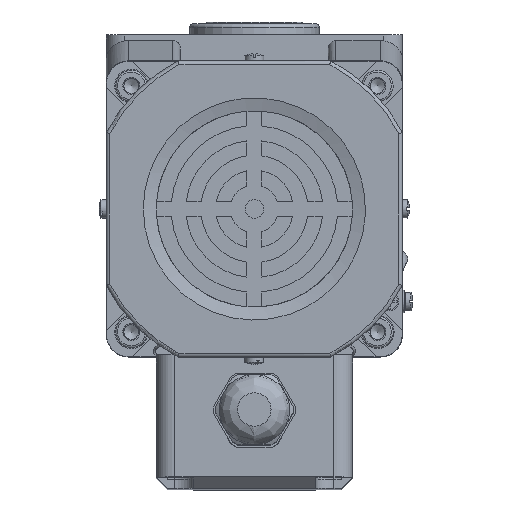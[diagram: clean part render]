
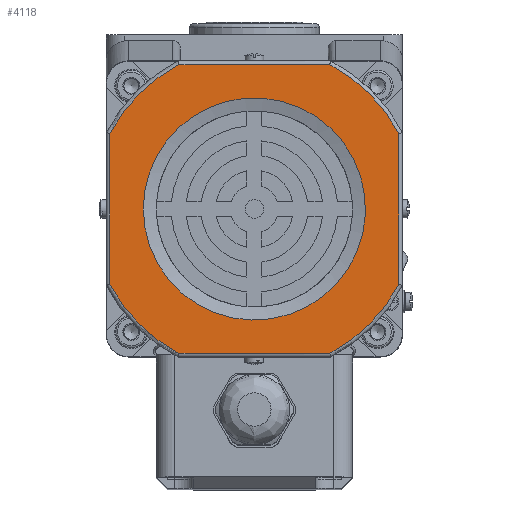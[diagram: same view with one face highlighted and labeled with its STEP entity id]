
A CAD part, left-side view. The second image highlights one B-rep face of the part: STEP entity #4118.
In plain terms, the highlighted planar face has unit normal (-1, 0, 0).
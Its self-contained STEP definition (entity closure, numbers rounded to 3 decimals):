
#765=LINE('',#32811,#1816);
#769=LINE('',#32837,#1820);
#772=LINE('',#32859,#1823);
#773=LINE('',#32870,#1824);
#1816=VECTOR('',#22947,1.);
#1820=VECTOR('',#22963,1.);
#1823=VECTOR('',#22974,1.);
#1824=VECTOR('',#22981,1.);
#3243=FACE_BOUND('',#6947,.T.);
#3244=FACE_BOUND('',#6948,.T.);
#4118=ADVANCED_FACE('',(#3243,#3244),#4998,.F.);
#4998=PLANE('',#20560);
#6947=EDGE_LOOP('',(#10522,#10523,#10524,#10525,#10526,#10527,#10528,#10529));
#6948=EDGE_LOOP('',(#10530));
#10522=ORIENTED_EDGE('',*,*,#16361,.T.);
#10523=ORIENTED_EDGE('',*,*,#16342,.T.);
#10524=ORIENTED_EDGE('',*,*,#16347,.T.);
#10525=ORIENTED_EDGE('',*,*,#16351,.T.);
#10526=ORIENTED_EDGE('',*,*,#16355,.T.);
#10527=ORIENTED_EDGE('',*,*,#16359,.T.);
#10528=ORIENTED_EDGE('',*,*,#16364,.T.);
#10529=ORIENTED_EDGE('',*,*,#16365,.T.);
#10530=ORIENTED_EDGE('',*,*,#16648,.T.);
#14166=VERTEX_POINT('',#32790);
#14167=VERTEX_POINT('',#32792);
#14169=VERTEX_POINT('',#32810);
#14171=VERTEX_POINT('',#32823);
#14173=VERTEX_POINT('',#32836);
#14175=VERTEX_POINT('',#32849);
#14176=VERTEX_POINT('',#32858);
#14177=VERTEX_POINT('',#32869);
#14352=VERTEX_POINT('',#37331);
#16342=EDGE_CURVE('',#14167,#14166,#19233,.T.);
#16347=EDGE_CURVE('',#14166,#14169,#765,.T.);
#16351=EDGE_CURVE('',#14169,#14171,#19235,.T.);
#16355=EDGE_CURVE('',#14171,#14173,#769,.T.);
#16359=EDGE_CURVE('',#14173,#14175,#19237,.T.);
#16361=EDGE_CURVE('',#14176,#14167,#772,.T.);
#16364=EDGE_CURVE('',#14175,#14177,#773,.T.);
#16365=EDGE_CURVE('',#14177,#14176,#19239,.T.);
#16648=EDGE_CURVE('',#14352,#14352,#19306,.T.);
#19233=CIRCLE('',#20364,44.);
#19235=CIRCLE('',#20370,44.);
#19237=CIRCLE('',#20376,44.);
#19239=CIRCLE('',#20382,44.);
#19306=CIRCLE('',#20558,30.);
#20364=AXIS2_PLACEMENT_3D('',#32791,#22938,#22939);
#20370=AXIS2_PLACEMENT_3D('',#32824,#22954,#22955);
#20376=AXIS2_PLACEMENT_3D('',#32850,#22970,#22971);
#20382=AXIS2_PLACEMENT_3D('',#32872,#22984,#22985);
#20558=AXIS2_PLACEMENT_3D('',#37330,#23432,#23433);
#20560=AXIS2_PLACEMENT_3D('',#37333,#23436,#23437);
#22938=DIRECTION('',(-1.,0.,0.));
#22939=DIRECTION('',(0.,0.,-1.));
#22947=DIRECTION('',(0.,0.,-1.));
#22954=DIRECTION('',(-1.,0.,0.));
#22955=DIRECTION('',(0.,0.,-1.));
#22963=DIRECTION('',(0.,-1.,0.));
#22970=DIRECTION('',(-1.,0.,0.));
#22971=DIRECTION('',(0.,0.,-1.));
#22974=DIRECTION('',(0.,1.,0.));
#22981=DIRECTION('',(0.,0.,1.));
#22984=DIRECTION('',(-1.,0.,0.));
#22985=DIRECTION('',(0.,0.,-1.));
#23432=DIRECTION('',(1.,0.,0.));
#23433=DIRECTION('',(0.,1.,0.));
#23436=DIRECTION('',(1.,0.,0.));
#23437=DIRECTION('',(0.,0.,-1.));
#32790=CARTESIAN_POINT('',(-102.,79.,60.372));
#32791=CARTESIAN_POINT('',(-102.,40.,40.));
#32792=CARTESIAN_POINT('',(-102.,60.372,79.));
#32810=CARTESIAN_POINT('',(-102.,79.,19.628));
#32811=CARTESIAN_POINT('',(-102.,79.,19.384));
#32823=CARTESIAN_POINT('',(-102.,60.372,1.));
#32824=CARTESIAN_POINT('',(-102.,40.,40.));
#32836=CARTESIAN_POINT('',(-102.,19.628,1.));
#32837=CARTESIAN_POINT('',(-102.,19.384,1.));
#32849=CARTESIAN_POINT('',(-102.,1.,19.628));
#32850=CARTESIAN_POINT('',(-102.,40.,40.));
#32858=CARTESIAN_POINT('',(-102.,19.628,79.));
#32859=CARTESIAN_POINT('',(-102.,60.616,79.));
#32869=CARTESIAN_POINT('',(-102.,1.,60.372));
#32870=CARTESIAN_POINT('',(-102.,1.,60.616));
#32872=CARTESIAN_POINT('',(-102.,40.,40.));
#37330=CARTESIAN_POINT('',(-102.,40.,40.));
#37331=CARTESIAN_POINT('',(-102.,70.,40.));
#37333=CARTESIAN_POINT('',(-102.,40.,40.));
